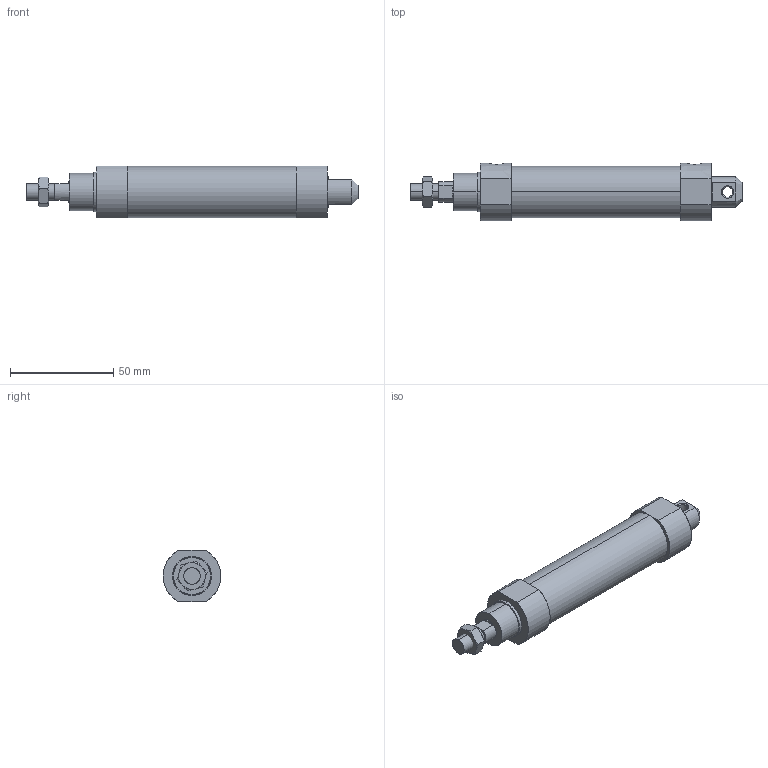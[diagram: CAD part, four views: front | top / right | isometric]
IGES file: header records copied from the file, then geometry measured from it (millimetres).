
Start section: SolidWorks IGES file using analytic representation for surfaces
Global section: file name: C:\Users\Toshiba\Desktop\J#2-20-50-C.IGS; native system: SolidWorks 2014; preprocessor: SolidWorks 2014; author: Toshiba; date: 160308.145653; units: millimetre
Bounding box: 161 x 28 x 25 mm (x, y, z)
Surface area: 13731.7 mm2 (no closed solid volume)
Topology: 0 solids, 0 shells, 78 faces, 1284 edges, 1284 vertices
Faces by surface type: bspline 48, revolution 30
